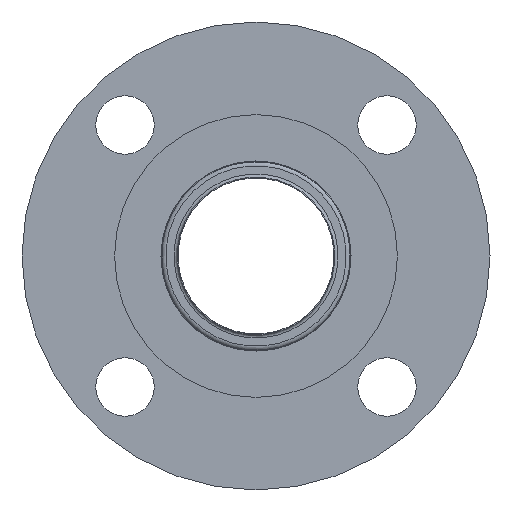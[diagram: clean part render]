
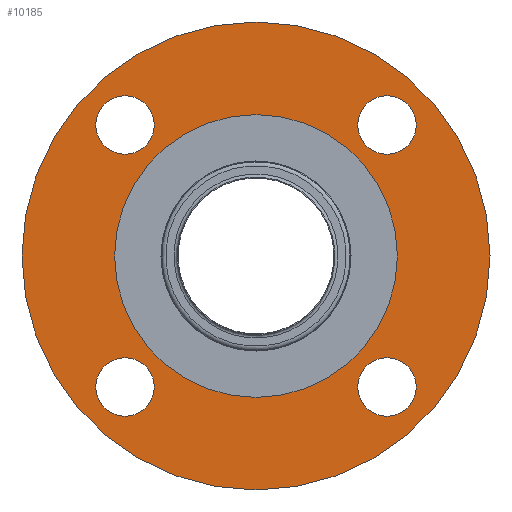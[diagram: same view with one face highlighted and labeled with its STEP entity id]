
A CAD part, front view. The second image highlights one B-rep face of the part: STEP entity #10185.
In plain terms, the highlighted planar face has unit normal (0, -1, 0) as drawn and (0, 1, 0) by its records, which use the part's own axes.
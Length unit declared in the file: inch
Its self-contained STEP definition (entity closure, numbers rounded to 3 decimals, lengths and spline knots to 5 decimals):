
#9970=CARTESIAN_POINT('',(-1.67938,0.5625,2.05438));
#9971=VERTEX_POINT('',#9970);
#9972=CARTESIAN_POINT('',(-1.67938,0.5625,1.67938));
#9973=DIRECTION('',(0.0,-1.0,0.0));
#9974=DIRECTION('',(0.0,0.0,1.0));
#9975=AXIS2_PLACEMENT_3D('',#9972,#9973,#9974);
#9976=CIRCLE('',#9975,0.375);
#9977=EDGE_CURVE('',#9971,#9971,#9976,.T.);
#9998=CARTESIAN_POINT('',(-2.05438,0.5625,-1.67938));
#9999=VERTEX_POINT('',#9998);
#10000=CARTESIAN_POINT('',(-1.67938,0.5625,-1.67938));
#10001=DIRECTION('',(0.0,-1.0,0.0));
#10002=DIRECTION('',(-1.0,0.0,0.0));
#10003=AXIS2_PLACEMENT_3D('',#10000,#10001,#10002);
#10004=CIRCLE('',#10003,0.375);
#10005=EDGE_CURVE('',#9999,#9999,#10004,.T.);
#10026=CARTESIAN_POINT('',(1.67938,0.5625,-2.05438));
#10027=VERTEX_POINT('',#10026);
#10028=CARTESIAN_POINT('',(1.67938,0.5625,-1.67938));
#10029=DIRECTION('',(0.0,-1.0,0.0));
#10030=DIRECTION('',(0.0,0.0,-1.0));
#10031=AXIS2_PLACEMENT_3D('',#10028,#10029,#10030);
#10032=CIRCLE('',#10031,0.375);
#10033=EDGE_CURVE('',#10027,#10027,#10032,.T.);
#10054=CARTESIAN_POINT('',(2.05438,0.5625,1.67938));
#10055=VERTEX_POINT('',#10054);
#10056=CARTESIAN_POINT('',(1.67938,0.5625,1.67938));
#10057=DIRECTION('',(0.0,-1.0,0.0));
#10058=DIRECTION('',(1.0,0.0,0.0));
#10059=AXIS2_PLACEMENT_3D('',#10056,#10057,#10058);
#10060=CIRCLE('',#10059,0.375);
#10061=EDGE_CURVE('',#10055,#10055,#10060,.T.);
#10082=CARTESIAN_POINT('',(1.8125,0.5625,0.));
#10083=VERTEX_POINT('',#10082);
#10084=CARTESIAN_POINT('',(0.0,0.5625,0.0));
#10085=DIRECTION('',(0.0,-1.0,0.0));
#10086=DIRECTION('',(-1.0,0.0,0.0));
#10087=AXIS2_PLACEMENT_3D('',#10084,#10085,#10086);
#10088=CIRCLE('',#10087,1.8125);
#10089=EDGE_CURVE('',#10083,#10083,#10088,.T.);
#10139=CARTESIAN_POINT('',(-3.0,0.5625,0.));
#10140=VERTEX_POINT('',#10139);
#10141=CARTESIAN_POINT('',(0.0,0.5625,0.0));
#10142=DIRECTION('',(0.0,-1.0,0.0));
#10143=DIRECTION('',(1.0,0.0,0.0));
#10144=AXIS2_PLACEMENT_3D('',#10141,#10142,#10143);
#10145=CIRCLE('',#10144,3.0);
#10146=EDGE_CURVE('',#10140,#10140,#10145,.T.);
#10162=CARTESIAN_POINT('',(0.0,0.5625,0.0));
#10163=DIRECTION('',(0.0,-1.0,0.0));
#10164=DIRECTION('',(0.0,0.0,-1.0));
#10165=AXIS2_PLACEMENT_3D('',#10162,#10163,#10164);
#10166=PLANE('',#10165);
#10167=ORIENTED_EDGE('',*,*,#10146,.F.);
#10168=EDGE_LOOP('',(#10167));
#10169=FACE_OUTER_BOUND('',#10168,.T.);
#10170=ORIENTED_EDGE('',*,*,#9977,.T.);
#10171=EDGE_LOOP('',(#10170));
#10172=FACE_BOUND('',#10171,.T.);
#10173=ORIENTED_EDGE('',*,*,#10005,.T.);
#10174=EDGE_LOOP('',(#10173));
#10175=FACE_BOUND('',#10174,.T.);
#10176=ORIENTED_EDGE('',*,*,#10033,.T.);
#10177=EDGE_LOOP('',(#10176));
#10178=FACE_BOUND('',#10177,.T.);
#10179=ORIENTED_EDGE('',*,*,#10061,.T.);
#10180=EDGE_LOOP('',(#10179));
#10181=FACE_BOUND('',#10180,.T.);
#10182=ORIENTED_EDGE('',*,*,#10089,.T.);
#10183=EDGE_LOOP('',(#10182));
#10184=FACE_BOUND('',#10183,.T.);
#10185=ADVANCED_FACE('',(#10169,#10172,#10175,#10178,#10181,#10184),#10166,.F.);
